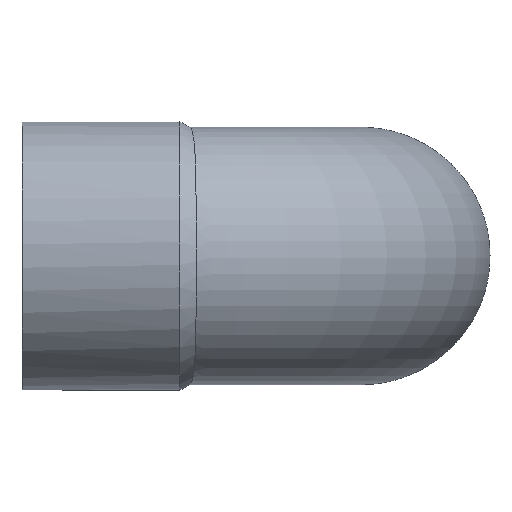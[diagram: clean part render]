
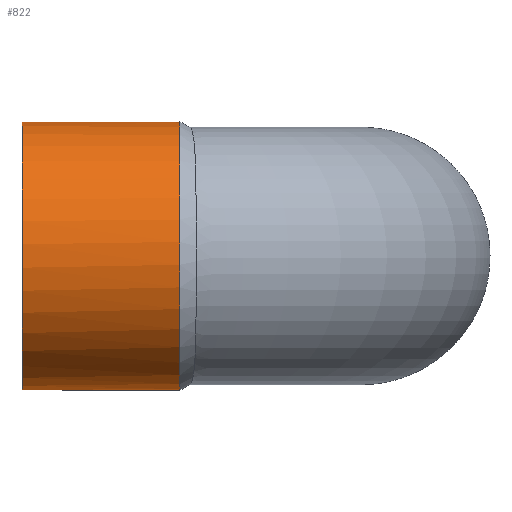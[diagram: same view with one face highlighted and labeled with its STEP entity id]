
A CAD part, front view. The second image highlights one B-rep face of the part: STEP entity #822.
In plain terms, the highlighted cylindrical face has radius 28.2 mm (diameter 56.4 mm), a full revolution.
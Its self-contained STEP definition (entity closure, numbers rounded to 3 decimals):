
#490=CARTESIAN_POINT('',(15.622,-34.149,-21.412));
#491=VERTEX_POINT('',#490);
#492=CARTESIAN_POINT('',(15.622,-34.149,21.412));
#493=VERTEX_POINT('',#492);
#494=CARTESIAN_POINT('',(15.622,-34.149,-21.412));
#495=CARTESIAN_POINT('',(15.337,-33.575,-20.92));
#496=CARTESIAN_POINT('',(15.077,-33.015,-20.4));
#497=CARTESIAN_POINT('',(14.835,-32.471,-19.852));
#498=CARTESIAN_POINT('',(14.307,-31.284,-18.654));
#499=CARTESIAN_POINT('',(13.854,-30.146,-17.29));
#500=CARTESIAN_POINT('',(13.464,-29.117,-15.763));
#501=CARTESIAN_POINT('',(13.208,-28.442,-14.762));
#502=CARTESIAN_POINT('',(12.98,-27.814,-13.691));
#503=CARTESIAN_POINT('',(12.778,-27.248,-12.552));
#504=CARTESIAN_POINT('',(12.637,-26.851,-11.755));
#505=CARTESIAN_POINT('',(12.509,-26.484,-10.92));
#506=CARTESIAN_POINT('',(12.398,-26.161,-10.074));
#507=CARTESIAN_POINT('',(12.17,-25.503,-8.353));
#508=CARTESIAN_POINT('',(12.006,-25.012,-6.564));
#509=CARTESIAN_POINT('',(11.902,-24.701,-4.736));
#510=CARTESIAN_POINT('',(11.827,-24.475,-3.411));
#511=CARTESIAN_POINT('',(11.784,-24.344,-2.066));
#512=CARTESIAN_POINT('',(11.772,-24.309,-0.722));
#513=CARTESIAN_POINT('',(11.759,-24.27,0.804));
#514=CARTESIAN_POINT('',(11.787,-24.355,2.332));
#515=CARTESIAN_POINT('',(11.857,-24.564,3.846));
#516=CARTESIAN_POINT('',(11.922,-24.759,5.263));
#517=CARTESIAN_POINT('',(12.022,-25.061,6.66));
#518=CARTESIAN_POINT('',(12.159,-25.465,8.02));
#519=CARTESIAN_POINT('',(12.334,-25.978,9.751));
#520=CARTESIAN_POINT('',(12.566,-26.656,11.425));
#521=CARTESIAN_POINT('',(12.863,-27.484,13.017));
#522=CARTESIAN_POINT('',(13.12,-28.202,14.398));
#523=CARTESIAN_POINT('',(13.425,-29.033,15.713));
#524=CARTESIAN_POINT('',(13.787,-29.955,16.94));
#525=CARTESIAN_POINT('',(14.224,-31.071,18.425));
#526=CARTESIAN_POINT('',(14.743,-32.325,19.785));
#527=CARTESIAN_POINT('',(15.383,-33.66,20.983));
#528=CARTESIAN_POINT('',(15.461,-33.822,21.129));
#529=CARTESIAN_POINT('',(15.54,-33.985,21.271));
#530=CARTESIAN_POINT('',(15.622,-34.149,21.412));
#531=B_SPLINE_CURVE_WITH_KNOTS('',3,(#494,#495,#496,#497,#498,#499,#500,#501,#502,#503,#504,#505,#506,#507,#508,#509,#510,#511,#512,#513,#514,#515,#516,#517,#518,#519,#520,#521,#522,#523,#524,#525,#526,#527,#528,#529,#530),.UNSPECIFIED.,.F.,.U.,(4,3,3,3,3,3,3,3,3,3,3,3,4),(-5.027,-4.754,-4.16,-3.77,-3.497,-2.942,-2.54,-2.083,-1.656,-1.112,-0.641,-0.069,0.0),.UNSPECIFIED.);
#532=EDGE_CURVE('',#491,#493,#531,.T.);
#796=CARTESIAN_POINT('',(-0.939,-52.5,0.0));
#797=DIRECTION('',(-1.0,0.,0.0));
#798=DIRECTION('',(0.0,-1.0,0.0));
#799=AXIS2_PLACEMENT_3D('',#796,#797,#798);
#800=CYLINDRICAL_SURFACE('',#799,28.2);
#801=CARTESIAN_POINT('',(15.622,-52.5,0.0));
#802=DIRECTION('',(-1.0,0.0,0.0));
#803=DIRECTION('',(0.0,-1.0,0.0));
#804=AXIS2_PLACEMENT_3D('',#801,#802,#803);
#805=CIRCLE('',#804,28.2);
#806=EDGE_CURVE('',#491,#493,#805,.T.);
#807=ORIENTED_EDGE('',*,*,#806,.T.);
#808=ORIENTED_EDGE('',*,*,#532,.F.);
#809=EDGE_LOOP('',(#807,#808));
#810=FACE_OUTER_BOUND('',#809,.T.);
#811=CARTESIAN_POINT('',(-17.5,-72.44,19.94));
#812=VERTEX_POINT('',#811);
#813=CARTESIAN_POINT('',(-17.5,-52.5,0.0));
#814=DIRECTION('',(-1.0,0.0,0.0));
#815=DIRECTION('',(0.0,-1.0,0.0));
#816=AXIS2_PLACEMENT_3D('',#813,#814,#815);
#817=CIRCLE('',#816,28.2);
#818=EDGE_CURVE('',#812,#812,#817,.T.);
#819=ORIENTED_EDGE('',*,*,#818,.F.);
#820=EDGE_LOOP('',(#819));
#821=FACE_BOUND('',#820,.T.);
#822=ADVANCED_FACE('',(#810,#821),#800,.T.);
